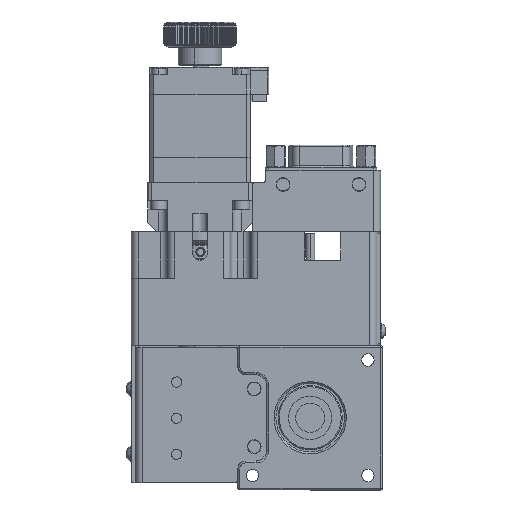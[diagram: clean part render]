
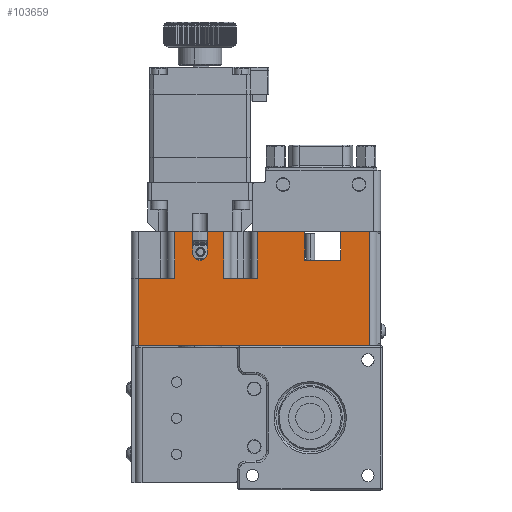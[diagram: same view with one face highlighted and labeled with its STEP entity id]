
A CAD part, front view. The second image highlights one B-rep face of the part: STEP entity #103659.
In plain terms, the highlighted planar face has unit normal (0, -1, 0).
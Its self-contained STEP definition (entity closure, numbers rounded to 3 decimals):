
#143 = VERTEX_POINT ( 'NONE', #59376 ) ;
#207 = LINE ( 'NONE', #80382, #121176 ) ;
#2817 = VECTOR ( 'NONE', #17088, 1000. ) ;
#2865 = DIRECTION ( 'NONE',  ( 0., 0., -1. ) ) ;
#5392 = CARTESIAN_POINT ( 'NONE',  ( -52.5, -21.8, 31.6 ) ) ;
#5510 = CARTESIAN_POINT ( 'NONE',  ( -50.5, -21.8, 25.6 ) ) ;
#7103 = DIRECTION ( 'NONE',  ( 0., 0., 1. ) ) ;
#9426 = VECTOR ( 'NONE', #116580, 1000. ) ;
#9624 = EDGE_CURVE ( 'NONE', #99620, #68187, #111277, .T. ) ;
#10303 = CARTESIAN_POINT ( 'NONE',  ( -28.5, -21.8, 31.6 ) ) ;
#10328 = LINE ( 'NONE', #49140, #99046 ) ;
#10570 = CARTESIAN_POINT ( 'NONE',  ( -52.5, -21.8, 28.6 ) ) ;
#12417 = CARTESIAN_POINT ( 'NONE',  ( -21.5, -21.8, 23.6 ) ) ;
#13029 = CARTESIAN_POINT ( 'NONE',  ( -3.5, -21.8, 31.6 ) ) ;
#13207 = ORIENTED_EDGE ( 'NONE', *, *, #95060, .F. ) ;
#14587 = LINE ( 'NONE', #15214, #2817 ) ;
#15214 = CARTESIAN_POINT ( 'NONE',  ( -48.5, -21.8, 28.6 ) ) ;
#15710 = DIRECTION ( 'NONE',  ( -1., 0., 0. ) ) ;
#17088 = DIRECTION ( 'NONE',  ( 0., 0., 1. ) ) ;
#17267 = CIRCLE ( 'NONE', #37302, 2. ) ;
#17294 = CARTESIAN_POINT ( 'NONE',  ( -21.5, -21.8, 23.6 ) ) ;
#19535 = VERTEX_POINT ( 'NONE', #110490 ) ;
#20350 = EDGE_CURVE ( 'NONE', #93871, #68187, #21112, .T. ) ;
#20669 = CARTESIAN_POINT ( 'NONE',  ( -44., -21.8, 18.6 ) ) ;
#20762 = VERTEX_POINT ( 'NONE', #88907 ) ;
#21112 = LINE ( 'NONE', #10303, #9426 ) ;
#21842 = VECTOR ( 'NONE', #85620, 1000. ) ;
#22174 = EDGE_LOOP ( 'NONE', ( #37444, #56999, #66206, #13207, #98397, #81148, #43838, #92735, #86128, #86293, #92909, #105419, #104214, #118525, #75938, #58876, #103895, #54160 ) ) ;
#23386 = DIRECTION ( 'NONE',  ( 1., 0., 0. ) ) ;
#23502 = CARTESIAN_POINT ( 'NONE',  ( -69.5, -21.8, 18.6 ) ) ;
#23551 = VECTOR ( 'NONE', #7103, 1000. ) ;
#25300 = DIRECTION ( 'NONE',  ( 0., 0., 1. ) ) ;
#26631 = EDGE_CURVE ( 'NONE', #80429, #19535, #10328, .T. ) ;
#26713 = CARTESIAN_POINT ( 'NONE',  ( -57.5, -21.8, 31.6 ) ) ;
#29261 = CARTESIAN_POINT ( 'NONE',  ( -21.5, -21.8, 23.6 ) ) ;
#30296 = DIRECTION ( 'NONE',  ( 0., 0., -1. ) ) ;
#30820 = CARTESIAN_POINT ( 'NONE',  ( -3.5, -21.8, 0. ) ) ;
#31422 = VECTOR ( 'NONE', #50287, 1000. ) ;
#32900 = VERTEX_POINT ( 'NONE', #121789 ) ;
#33438 = VECTOR ( 'NONE', #2865, 1000. ) ;
#35665 = EDGE_CURVE ( 'NONE', #76701, #65997, #110577, .T. ) ;
#37280 = DIRECTION ( 'NONE',  ( 1., 0., 0. ) ) ;
#37302 = AXIS2_PLACEMENT_3D ( 'NONE', #5510, #102889, #15710 ) ;
#37327 = EDGE_CURVE ( 'NONE', #59415, #143, #77977, .T. ) ;
#37444 = ORIENTED_EDGE ( 'NONE', *, *, #9624, .T. ) ;
#37857 = LINE ( 'NONE', #93879, #21842 ) ;
#38916 = EDGE_CURVE ( 'NONE', #94815, #19535, #47817, .T. ) ;
#39548 = VERTEX_POINT ( 'NONE', #92181 ) ;
#41930 = LINE ( 'NONE', #81985, #75904 ) ;
#43785 = EDGE_CURVE ( 'NONE', #99620, #143, #41930, .T. ) ;
#43838 = ORIENTED_EDGE ( 'NONE', *, *, #85449, .T. ) ;
#46764 = DIRECTION ( 'NONE',  ( 0., 0., 1. ) ) ;
#46856 = FACE_OUTER_BOUND ( 'NONE', #22174, .T. ) ;
#47817 = LINE ( 'NONE', #17294, #23551 ) ;
#49140 = CARTESIAN_POINT ( 'NONE',  ( -34.5, -21.8, 31.6 ) ) ;
#50287 = DIRECTION ( 'NONE',  ( 1., 0., 0. ) ) ;
#52861 = EDGE_CURVE ( 'NONE', #76701, #39548, #79471, .T. ) ;
#53390 = DIRECTION ( 'NONE',  ( 1., 0., 0. ) ) ;
#54160 = ORIENTED_EDGE ( 'NONE', *, *, #43785, .F. ) ;
#56999 = ORIENTED_EDGE ( 'NONE', *, *, #20350, .F. ) ;
#57627 = CARTESIAN_POINT ( 'NONE',  ( -34.5, -21.8, 14.3 ) ) ;
#58488 = DIRECTION ( 'NONE',  ( 0., 0., 1. ) ) ;
#58876 = ORIENTED_EDGE ( 'NONE', *, *, #108654, .F. ) ;
#59376 = CARTESIAN_POINT ( 'NONE',  ( -67.5, -21.8, 0. ) ) ;
#59415 = VERTEX_POINT ( 'NONE', #81354 ) ;
#59797 = CARTESIAN_POINT ( 'NONE',  ( -11.5, -21.8, 31.6 ) ) ;
#60479 = CARTESIAN_POINT ( 'NONE',  ( -34.5, -21.8, 18.6 ) ) ;
#60974 = EDGE_CURVE ( 'NONE', #111848, #93871, #125684, .T. ) ;
#61170 = CARTESIAN_POINT ( 'NONE',  ( -34.5, -21.8, 31.6 ) ) ;
#61670 = VERTEX_POINT ( 'NONE', #26713 ) ;
#62320 = VECTOR ( 'NONE', #25300, 1000. ) ;
#63186 = CARTESIAN_POINT ( 'NONE',  ( -11.5, -21.8, 23.6 ) ) ;
#63563 = LINE ( 'NONE', #23502, #125525 ) ;
#65823 = VECTOR ( 'NONE', #94750, 1000. ) ;
#65997 = VERTEX_POINT ( 'NONE', #60479 ) ;
#66206 = ORIENTED_EDGE ( 'NONE', *, *, #60974, .F. ) ;
#68187 = VERTEX_POINT ( 'NONE', #13029 ) ;
#69923 = VECTOR ( 'NONE', #106012, 1000. ) ;
#75904 = VECTOR ( 'NONE', #119577, 1000. ) ;
#75938 = ORIENTED_EDGE ( 'NONE', *, *, #78769, .T. ) ;
#76701 = VERTEX_POINT ( 'NONE', #20669 ) ;
#77174 = AXIS2_PLACEMENT_3D ( 'NONE', #124502, #86308, #37280 ) ;
#77281 = CARTESIAN_POINT ( 'NONE',  ( -11.5, -21.8, 23.6 ) ) ;
#77977 = LINE ( 'NONE', #90027, #33438 ) ;
#78036 = LINE ( 'NONE', #10570, #118910 ) ;
#78421 = DIRECTION ( 'NONE',  ( 1., 0., 0. ) ) ;
#78470 = DIRECTION ( 'NONE',  ( 1., 0., 0. ) ) ;
#78616 = LINE ( 'NONE', #57627, #69923 ) ;
#78769 = EDGE_CURVE ( 'NONE', #61670, #32900, #37857, .T. ) ;
#79309 = CARTESIAN_POINT ( 'NONE',  ( -48.5, -21.8, 31.6 ) ) ;
#79471 = LINE ( 'NONE', #108758, #97463 ) ;
#79871 = VERTEX_POINT ( 'NONE', #95271 ) ;
#80382 = CARTESIAN_POINT ( 'NONE',  ( -48.5, -21.8, 31.6 ) ) ;
#80429 = VERTEX_POINT ( 'NONE', #61170 ) ;
#81148 = ORIENTED_EDGE ( 'NONE', *, *, #26631, .F. ) ;
#81354 = CARTESIAN_POINT ( 'NONE',  ( -67.5, -21.8, 18.6 ) ) ;
#81985 = CARTESIAN_POINT ( 'NONE',  ( -69.5, -21.8, 0. ) ) ;
#83856 = VECTOR ( 'NONE', #23386, 1000. ) ;
#85449 = EDGE_CURVE ( 'NONE', #80429, #65997, #78616, .T. ) ;
#85620 = DIRECTION ( 'NONE',  ( 0., 0., -1. ) ) ;
#85677 = PLANE ( 'NONE',  #77174 ) ;
#86128 = ORIENTED_EDGE ( 'NONE', *, *, #52861, .T. ) ;
#86293 = ORIENTED_EDGE ( 'NONE', *, *, #89309, .F. ) ;
#86308 = DIRECTION ( 'NONE',  ( 0., 1., 0. ) ) ;
#86563 = EDGE_CURVE ( 'NONE', #111458, #79871, #78036, .T. ) ;
#88907 = CARTESIAN_POINT ( 'NONE',  ( -48.5, -21.8, 25.6 ) ) ;
#89309 = EDGE_CURVE ( 'NONE', #98931, #39548, #207, .T. ) ;
#90027 = CARTESIAN_POINT ( 'NONE',  ( -67.5, -21.8, 14.3 ) ) ;
#92181 = CARTESIAN_POINT ( 'NONE',  ( -44., -21.8, 31.6 ) ) ;
#92735 = ORIENTED_EDGE ( 'NONE', *, *, #35665, .F. ) ;
#92909 = ORIENTED_EDGE ( 'NONE', *, *, #94107, .F. ) ;
#93401 = CARTESIAN_POINT ( 'NONE',  ( -3.5, -21.8, 14.3 ) ) ;
#93871 = VERTEX_POINT ( 'NONE', #59797 ) ;
#93879 = CARTESIAN_POINT ( 'NONE',  ( -57.5, -21.8, 14.3 ) ) ;
#94107 = EDGE_CURVE ( 'NONE', #20762, #98931, #14587, .T. ) ;
#94750 = DIRECTION ( 'NONE',  ( 1., 0., 0. ) ) ;
#94815 = VERTEX_POINT ( 'NONE', #12417 ) ;
#95060 = EDGE_CURVE ( 'NONE', #94815, #111848, #98644, .T. ) ;
#95271 = CARTESIAN_POINT ( 'NONE',  ( -52.5, -21.8, 25.6 ) ) ;
#95677 = EDGE_CURVE ( 'NONE', #79871, #20762, #17267, .T. ) ;
#96139 = EDGE_CURVE ( 'NONE', #61670, #111458, #115118, .T. ) ;
#97463 = VECTOR ( 'NONE', #58488, 1000. ) ;
#98397 = ORIENTED_EDGE ( 'NONE', *, *, #38916, .T. ) ;
#98644 = LINE ( 'NONE', #29261, #31422 ) ;
#98931 = VERTEX_POINT ( 'NONE', #79309 ) ;
#99046 = VECTOR ( 'NONE', #78421, 1000. ) ;
#99620 = VERTEX_POINT ( 'NONE', #30820 ) ;
#102889 = DIRECTION ( 'NONE',  ( 0., -1., 0. ) ) ;
#103659 = ADVANCED_FACE ( 'NONE', ( #46856 ), #85677, .F. ) ;
#103895 = ORIENTED_EDGE ( 'NONE', *, *, #37327, .T. ) ;
#104214 = ORIENTED_EDGE ( 'NONE', *, *, #86563, .F. ) ;
#104941 = CARTESIAN_POINT ( 'NONE',  ( -57.5, -21.8, 31.6 ) ) ;
#105151 = VECTOR ( 'NONE', #46764, 1000. ) ;
#105419 = ORIENTED_EDGE ( 'NONE', *, *, #95677, .F. ) ;
#106012 = DIRECTION ( 'NONE',  ( 0., 0., -1. ) ) ;
#108654 = EDGE_CURVE ( 'NONE', #59415, #32900, #63563, .T. ) ;
#108758 = CARTESIAN_POINT ( 'NONE',  ( -44., -21.8, 14.3 ) ) ;
#109951 = CARTESIAN_POINT ( 'NONE',  ( -36.5, -21.8, 18.6 ) ) ;
#110490 = CARTESIAN_POINT ( 'NONE',  ( -21.5, -21.8, 31.6 ) ) ;
#110577 = LINE ( 'NONE', #109951, #83856 ) ;
#111277 = LINE ( 'NONE', #93401, #62320 ) ;
#111458 = VERTEX_POINT ( 'NONE', #5392 ) ;
#111848 = VERTEX_POINT ( 'NONE', #63186 ) ;
#115118 = LINE ( 'NONE', #104941, #65823 ) ;
#116580 = DIRECTION ( 'NONE',  ( 1., 0., 0. ) ) ;
#118525 = ORIENTED_EDGE ( 'NONE', *, *, #96139, .F. ) ;
#118910 = VECTOR ( 'NONE', #30296, 1000. ) ;
#119577 = DIRECTION ( 'NONE',  ( -1., 0., 0. ) ) ;
#121176 = VECTOR ( 'NONE', #78470, 1000. ) ;
#121789 = CARTESIAN_POINT ( 'NONE',  ( -57.5, -21.8, 18.6 ) ) ;
#124502 = CARTESIAN_POINT ( 'NONE',  ( -28.5, -21.8, 14.3 ) ) ;
#125525 = VECTOR ( 'NONE', #53390, 1000. ) ;
#125684 = LINE ( 'NONE', #77281, #105151 ) ;
